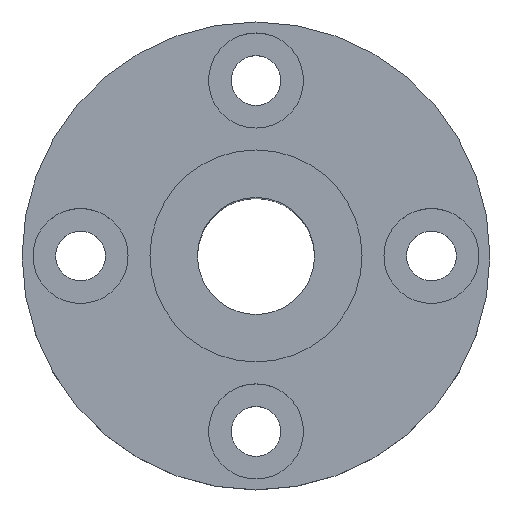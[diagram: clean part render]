
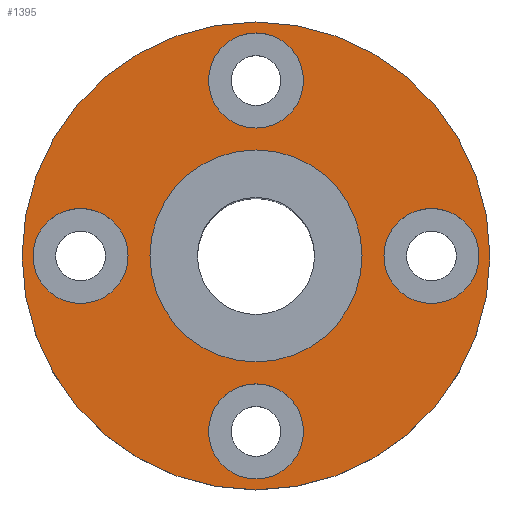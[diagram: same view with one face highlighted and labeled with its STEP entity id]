
A CAD part, top view. The second image highlights one B-rep face of the part: STEP entity #1395.
In plain terms, the highlighted planar face has unit normal (0, 0, 1).
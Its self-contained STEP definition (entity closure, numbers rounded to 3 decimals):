
#133=CARTESIAN_POINT('',(-7.25,0.,22.5));
#134=VERTEX_POINT('',#133);
#143=CARTESIAN_POINT('',(7.25,0.,22.5));
#144=VERTEX_POINT('',#143);
#145=CARTESIAN_POINT('',(0.0,0.0,22.5));
#146=DIRECTION('',(0.0,0.0,-1.0));
#147=DIRECTION('',(-1.0,0.0,0.0));
#148=AXIS2_PLACEMENT_3D('',#145,#146,#147);
#149=CIRCLE('',#148,7.25);
#150=EDGE_CURVE('',#144,#134,#149,.T.);
#217=CARTESIAN_POINT('',(-16.,0.,22.5));
#218=VERTEX_POINT('',#217);
#227=CARTESIAN_POINT('',(16.,0.,22.5));
#228=VERTEX_POINT('',#227);
#229=CARTESIAN_POINT('',(0.0,0.0,22.5));
#230=DIRECTION('',(0.0,0.0,-1.0));
#231=DIRECTION('',(-1.0,0.0,0.0));
#232=AXIS2_PLACEMENT_3D('',#229,#230,#231);
#233=CIRCLE('',#232,16.);
#234=EDGE_CURVE('',#218,#228,#233,.T.);
#345=CARTESIAN_POINT('',(15.25,0.0,22.5));
#346=VERTEX_POINT('',#345);
#362=CARTESIAN_POINT('',(8.75,0.,22.5));
#363=VERTEX_POINT('',#362);
#370=CARTESIAN_POINT('',(12.,0.0,22.5));
#371=DIRECTION('',(0.0,0.0,-1.0));
#372=DIRECTION('',(1.0,0.0,0.0));
#373=AXIS2_PLACEMENT_3D('',#370,#371,#372);
#374=CIRCLE('',#373,3.25);
#375=EDGE_CURVE('',#346,#363,#374,.T.);
#471=CARTESIAN_POINT('',(0.,15.25,22.5));
#472=VERTEX_POINT('',#471);
#488=CARTESIAN_POINT('',(0.,8.75,22.5));
#489=VERTEX_POINT('',#488);
#496=CARTESIAN_POINT('',(0.,12.,22.5));
#497=DIRECTION('',(0.0,0.0,-1.0));
#498=DIRECTION('',(0.0,1.0,0.0));
#499=AXIS2_PLACEMENT_3D('',#496,#497,#498);
#500=CIRCLE('',#499,3.25);
#501=EDGE_CURVE('',#472,#489,#500,.T.);
#597=CARTESIAN_POINT('',(-15.25,0.,22.5));
#598=VERTEX_POINT('',#597);
#614=CARTESIAN_POINT('',(-8.75,0.,22.5));
#615=VERTEX_POINT('',#614);
#622=CARTESIAN_POINT('',(-12.,0.,22.5));
#623=DIRECTION('',(0.0,0.0,-1.0));
#624=DIRECTION('',(-1.0,0.0,0.0));
#625=AXIS2_PLACEMENT_3D('',#622,#623,#624);
#626=CIRCLE('',#625,3.25);
#627=EDGE_CURVE('',#598,#615,#626,.T.);
#723=CARTESIAN_POINT('',(0.,-15.25,22.5));
#724=VERTEX_POINT('',#723);
#740=CARTESIAN_POINT('',(0.,-8.75,22.5));
#741=VERTEX_POINT('',#740);
#748=CARTESIAN_POINT('',(0.,-12.,22.5));
#749=DIRECTION('',(0.0,0.0,-1.0));
#750=DIRECTION('',(0.0,-1.0,0.0));
#751=AXIS2_PLACEMENT_3D('',#748,#749,#750);
#752=CIRCLE('',#751,3.25);
#753=EDGE_CURVE('',#724,#741,#752,.T.);
#811=CARTESIAN_POINT('',(0.,-12.,22.5));
#812=DIRECTION('',(0.0,0.0,-1.0));
#813=DIRECTION('',(0.0,-1.0,0.0));
#814=AXIS2_PLACEMENT_3D('',#811,#812,#813);
#815=CIRCLE('',#814,3.25);
#816=EDGE_CURVE('',#741,#724,#815,.T.);
#915=CARTESIAN_POINT('',(-12.,0.,22.5));
#916=DIRECTION('',(0.0,0.0,-1.0));
#917=DIRECTION('',(-1.0,0.0,0.0));
#918=AXIS2_PLACEMENT_3D('',#915,#916,#917);
#919=CIRCLE('',#918,3.25);
#920=EDGE_CURVE('',#615,#598,#919,.T.);
#1019=CARTESIAN_POINT('',(0.,12.,22.5));
#1020=DIRECTION('',(0.0,0.0,-1.0));
#1021=DIRECTION('',(0.0,1.0,0.0));
#1022=AXIS2_PLACEMENT_3D('',#1019,#1020,#1021);
#1023=CIRCLE('',#1022,3.25);
#1024=EDGE_CURVE('',#489,#472,#1023,.T.);
#1123=CARTESIAN_POINT('',(12.,0.0,22.5));
#1124=DIRECTION('',(0.0,0.0,-1.0));
#1125=DIRECTION('',(1.0,0.0,0.0));
#1126=AXIS2_PLACEMENT_3D('',#1123,#1124,#1125);
#1127=CIRCLE('',#1126,3.25);
#1128=EDGE_CURVE('',#363,#346,#1127,.T.);
#1188=CARTESIAN_POINT('',(0.0,0.0,22.5));
#1189=DIRECTION('',(0.0,0.0,-1.0));
#1190=DIRECTION('',(-1.0,0.0,0.0));
#1191=AXIS2_PLACEMENT_3D('',#1188,#1189,#1190);
#1192=CIRCLE('',#1191,16.);
#1193=EDGE_CURVE('',#228,#218,#1192,.T.);
#1306=CARTESIAN_POINT('',(0.0,0.0,22.5));
#1307=DIRECTION('',(0.0,0.0,-1.0));
#1308=DIRECTION('',(-1.0,0.0,0.0));
#1309=AXIS2_PLACEMENT_3D('',#1306,#1307,#1308);
#1310=CIRCLE('',#1309,7.25);
#1311=EDGE_CURVE('',#134,#144,#1310,.T.);
#1366=CARTESIAN_POINT('',(0.0,0.0,22.5));
#1367=DIRECTION('',(0.0,0.0,-1.0));
#1368=DIRECTION('',(-1.0,0.0,0.0));
#1369=AXIS2_PLACEMENT_3D('',#1366,#1367,#1368);
#1370=PLANE('',#1369);
#1371=ORIENTED_EDGE('',*,*,#1193,.F.);
#1372=ORIENTED_EDGE('',*,*,#234,.F.);
#1373=EDGE_LOOP('',(#1371,#1372));
#1374=FACE_OUTER_BOUND('',#1373,.T.);
#1375=ORIENTED_EDGE('',*,*,#753,.T.);
#1376=ORIENTED_EDGE('',*,*,#816,.T.);
#1377=EDGE_LOOP('',(#1375,#1376));
#1378=FACE_BOUND('',#1377,.T.);
#1379=ORIENTED_EDGE('',*,*,#627,.T.);
#1380=ORIENTED_EDGE('',*,*,#920,.T.);
#1381=EDGE_LOOP('',(#1379,#1380));
#1382=FACE_BOUND('',#1381,.T.);
#1383=ORIENTED_EDGE('',*,*,#501,.T.);
#1384=ORIENTED_EDGE('',*,*,#1024,.T.);
#1385=EDGE_LOOP('',(#1383,#1384));
#1386=FACE_BOUND('',#1385,.T.);
#1387=ORIENTED_EDGE('',*,*,#375,.T.);
#1388=ORIENTED_EDGE('',*,*,#1128,.T.);
#1389=EDGE_LOOP('',(#1387,#1388));
#1390=FACE_BOUND('',#1389,.T.);
#1391=ORIENTED_EDGE('',*,*,#150,.T.);
#1392=ORIENTED_EDGE('',*,*,#1311,.T.);
#1393=EDGE_LOOP('',(#1391,#1392));
#1394=FACE_BOUND('',#1393,.T.);
#1395=ADVANCED_FACE('',(#1374,#1378,#1382,#1386,#1390,#1394),#1370,.F.);
